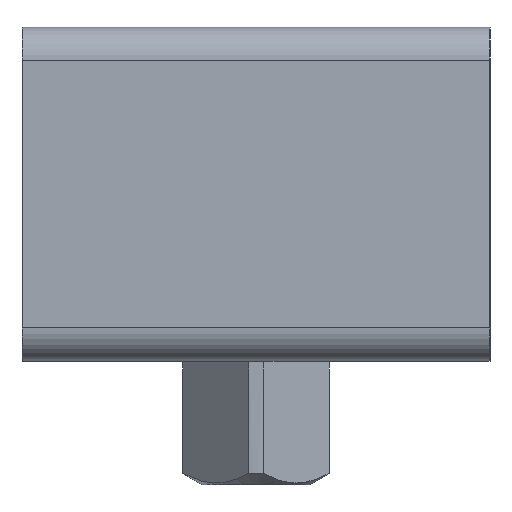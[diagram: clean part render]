
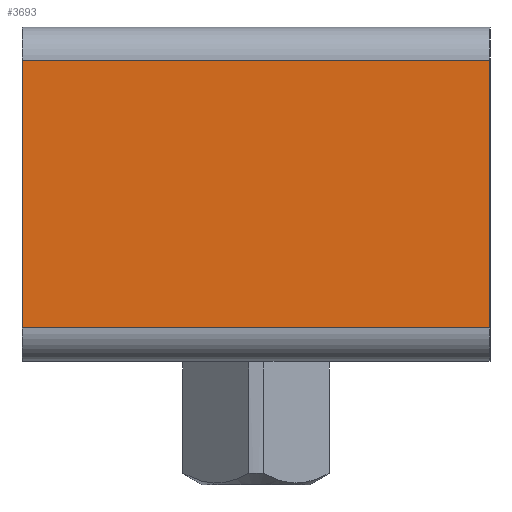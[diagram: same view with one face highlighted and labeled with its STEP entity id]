
A CAD part, left-side view. The second image highlights one B-rep face of the part: STEP entity #3693.
In plain terms, the highlighted planar face has unit normal (-1, 0, 0).
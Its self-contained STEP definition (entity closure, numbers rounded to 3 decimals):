
#22=DIRECTION('',(0.,0.,1.));
#23=VECTOR('',#22,40.);
#24=CARTESIAN_POINT('',(0.,0.,-45.));
#25=LINE('',#24,#23);
#282=DIRECTION('',(0.,0.,1.));
#283=VECTOR('',#282,40.);
#284=CARTESIAN_POINT('',(0.,70.,-45.));
#285=LINE('',#284,#283);
#475=DIRECTION('',(0.,1.,0.));
#476=VECTOR('',#475,70.);
#477=CARTESIAN_POINT('',(0.,0.,-5.));
#478=LINE('',#477,#476);
#484=DIRECTION('',(0.,1.,0.));
#485=VECTOR('',#484,70.);
#486=CARTESIAN_POINT('',(0.,0.,-45.));
#487=LINE('',#486,#485);
#2498=CARTESIAN_POINT('',(0.,0.,-45.));
#2499=CARTESIAN_POINT('',(0.,70.,-45.));
#2500=VERTEX_POINT('',#2498);
#2501=VERTEX_POINT('',#2499);
#2518=CARTESIAN_POINT('',(0.,0.,-5.));
#2519=CARTESIAN_POINT('',(0.,70.,-5.));
#2520=VERTEX_POINT('',#2518);
#2521=VERTEX_POINT('',#2519);
#3681=CARTESIAN_POINT('',(0.,0.,-50.));
#3682=DIRECTION('',(-1.,0.,0.));
#3683=DIRECTION('',(0.,0.,1.));
#3684=AXIS2_PLACEMENT_3D('',#3681,#3682,#3683);
#3685=PLANE('',#3684);
#3686=ORIENTED_EDGE('',*,*,#3105,.F.);
#3688=ORIENTED_EDGE('',*,*,#3687,.T.);
#3689=ORIENTED_EDGE('',*,*,#3482,.T.);
#3690=ORIENTED_EDGE('',*,*,#3675,.F.);
#3691=EDGE_LOOP('',(#3686,#3688,#3689,#3690));
#3692=FACE_OUTER_BOUND('',#3691,.F.);
#3693=ADVANCED_FACE('',(#3692),#3685,.T.);
#3105=EDGE_CURVE('',#2500,#2520,#25,.T.);
#3482=EDGE_CURVE('',#2501,#2521,#285,.T.);
#3675=EDGE_CURVE('',#2520,#2521,#478,.T.);
#3687=EDGE_CURVE('',#2500,#2501,#487,.T.);
